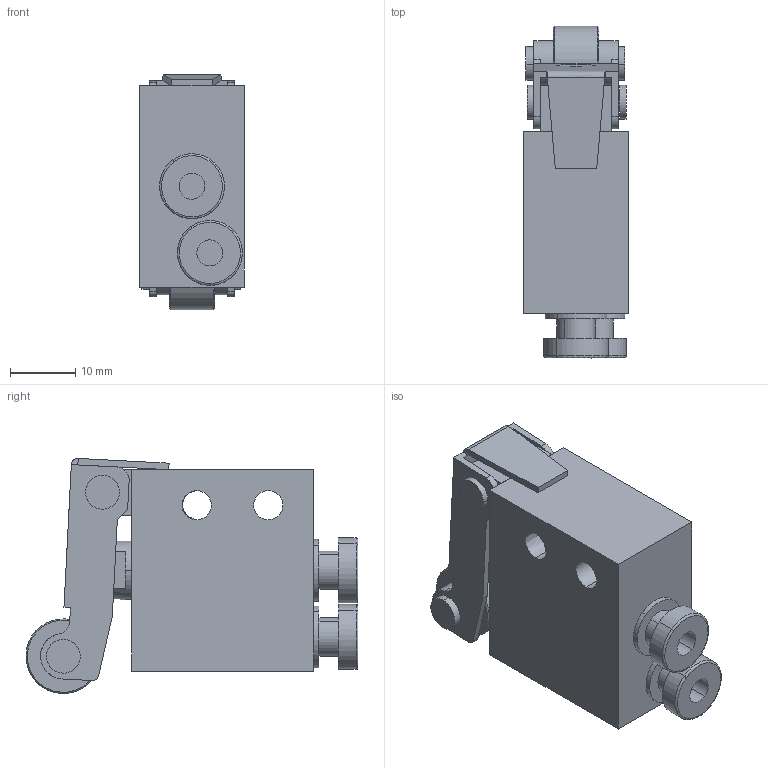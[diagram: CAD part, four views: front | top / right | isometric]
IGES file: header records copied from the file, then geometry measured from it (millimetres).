
Start section: 3D InterOp IGES (v. 2020 1.0.1), Spatial Corp. Copyright (c) 1999-2017.
Global section: file name: mclr4.igs; native system: Spatial Corp.; preprocessor: 3D InterOp ACIS/IGES; author: TraceParts; organization: TraceParts S.A.; date: 20241021.173741; units: millimetre
Bounding box: 16 x 51.06 x 36.16 mm (x, y, z)
Surface area: 8345.7 mm2 (no closed solid volume)
Topology: 0 solids, 0 shells, 156 faces, 726 edges, 720 vertices
Faces by surface type: revolution 90, extrusion 64, bspline 2
